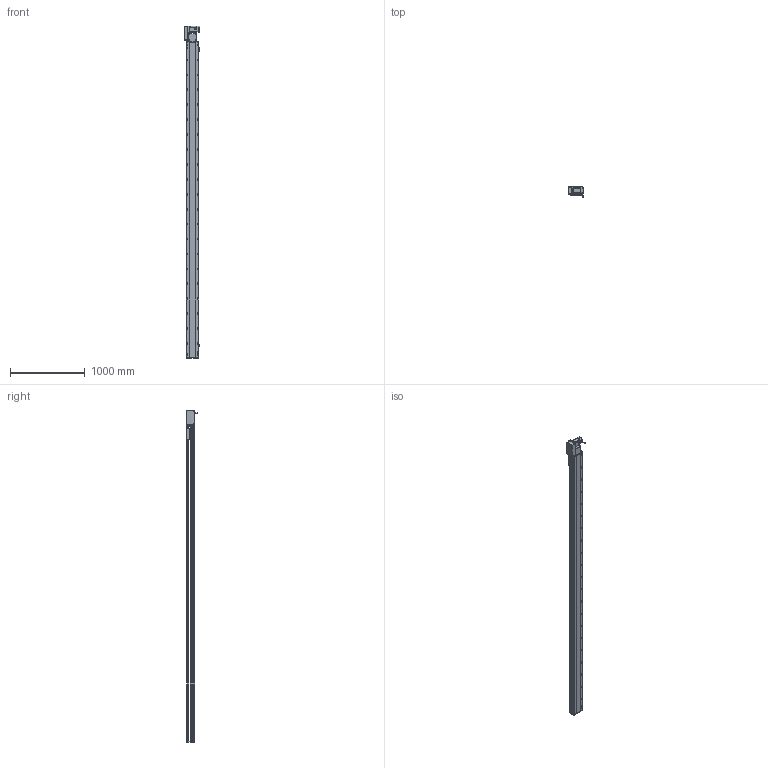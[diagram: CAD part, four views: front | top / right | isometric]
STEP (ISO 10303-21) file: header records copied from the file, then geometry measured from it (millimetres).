
FILE_DESCRIPTION (( 'STEP AP214' ), '1' );
FILE_NAME ('RTB17S-XX-3950-L-M75-C4.STEP', '2025-12-12T00:30:35', ( '' ), ( '' ), 'SwSTEP 2.0', 'SolidWorks 2018', '' );
FILE_SCHEMA (( 'AUTOMOTIVE_DESIGN' ));
Length unit declared in the file: millimetre
Products named in the file (15): RTB22S-GY-018P^RTB17S-L-々湍釱蚾饜-750W_RTB17S-XX-XX-L-M75-C4; RMP17S-L-014-T20-P75--々湍釱^RTB17S-L-々湍釱蚾饜-750W_RTB17S-XX-XX-L-M75-C4; EE672^RTB17S-XX-XX-L-M75-C4; RTB17S-L-004-賑釱^RTB17S-賑釱_RTB17S-XX-XX-L-M75-C4; RTB22S-GY-005P^RTB17S-L-々湍釱蚾饜-750W_RTB17S-XX-XX-L-M75-C4; RTB22S-GY-017P^RTB17S-L-々湍釱蚾饜-750W_RTB17S-XX-XX-L-M75-C4; RTB22S-GY-008-M75--萇儂啣^RTB17S-L-々湍釱蚾饜-750W_RTB17S-XX-XX-L-M75-C4; RTB17S-XX-3950-L-M75-C4; RTB17-R-011菁釱^RTB17S-XX-XX-L-M75-C4; RTB17S-L-々湍釱蚾饜-750W^RTB17S-XX-XX-L-M75-C4; RTB17S-L-007奻裔^RTB17S-XX-XX-L-M75-C4; RTB17S-賑釱^RTB17S-XX-XX-L-M75-C4; 750W萇儂^RTB17S-XX-XX-L-M75-C4; RTB17S-L-001-耜醱啣^RTB17S-XX-XX-L-M75-C4; RTH13-BL-012覜茼え俋离^RTB17S-賑釱_RTB17S-XX-XX-L-M75-C4
Assembly tree (17 placements, depth 3):
  RTB17S-XX-3950-L-M75-C4
    RTB17-R-011菁釱^RTB17S-XX-XX-L-M75-C4
    EE672^RTB17S-XX-XX-L-M75-C4  x3
    RTB17S-L-001-耜醱啣^RTB17S-XX-XX-L-M75-C4
    RTB17S-賑釱^RTB17S-XX-XX-L-M75-C4
      RTB17S-L-004-賑釱^RTB17S-賑釱_RTB17S-XX-XX-L-M75-C4
      RTH13-BL-012覜茼え俋离^RTB17S-賑釱_RTB17S-XX-XX-L-M75-C4
    RTB17S-L-007奻裔^RTB17S-XX-XX-L-M75-C4
    750W萇儂^RTB17S-XX-XX-L-M75-C4
    RTB17S-L-々湍釱蚾饜-750W^RTB17S-XX-XX-L-M75-C4
      RMP17S-L-014-T20-P75--々湍釱^RTB17S-L-々湍釱蚾饜-750W_RTB17S-XX-XX-L-M75-C4
      RTB22S-GY-005P^RTB17S-L-々湍釱蚾饜-750W_RTB17S-XX-XX-L-M75-C4
      RTB22S-GY-017P^RTB17S-L-々湍釱蚾饜-750W_RTB17S-XX-XX-L-M75-C4  x2
      RTB22S-GY-008-M75--萇儂啣^RTB17S-L-々湍釱蚾饜-750W_RTB17S-XX-XX-L-M75-C4
      RTB22S-GY-018P^RTB17S-L-々湍釱蚾饜-750W_RTB17S-XX-XX-L-M75-C4
Bounding box: 210.4 x 152.7 x 4449 mm (x, y, z)
Volume: 30642057.7 mm3; surface area: 5694490.2 mm2
Topology: 17 solids, 17 shells, 2329 faces, 6592 edges, 4274 vertices
Faces by surface type: plane 1000, cylinder 913, bspline 294, cone 110, sphere 8, torus 4
Entity records: 69622 total; most frequent: CARTESIAN_POINT 20856, ORIENTED_EDGE 10028, DIRECTION 9212, EDGE_CURVE 5014, AXIS2_PLACEMENT_3D 3294, VERTEX_POINT 3278, VECTOR 2624, LINE 2624
